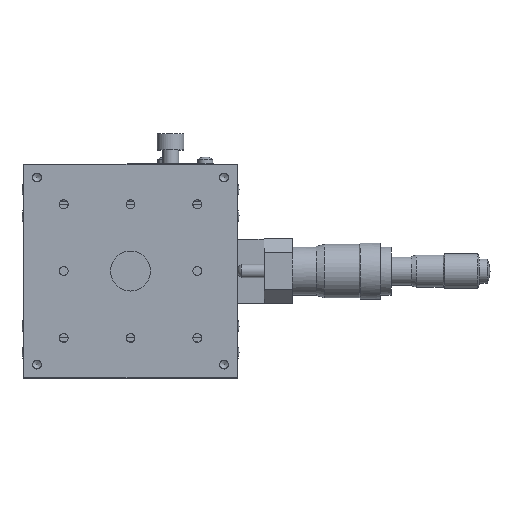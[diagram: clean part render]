
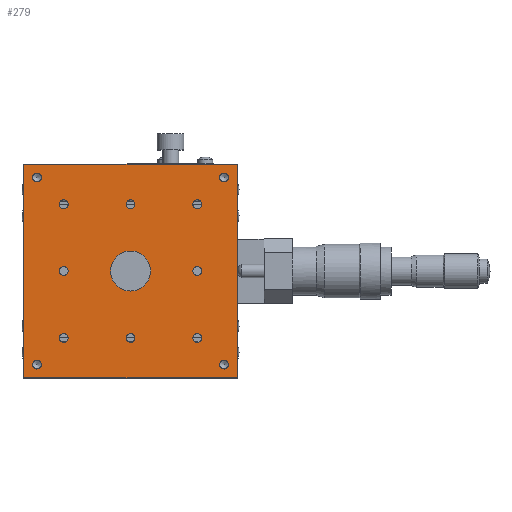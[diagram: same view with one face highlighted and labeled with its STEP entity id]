
A CAD part, top view. The second image highlights one B-rep face of the part: STEP entity #279.
In plain terms, the highlighted planar face has unit normal (0, 0, 1).
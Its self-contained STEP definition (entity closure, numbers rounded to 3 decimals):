
#279 = ADVANCED_FACE( '', ( #719, #720, #721, #722, #723, #724, #725, #726, #727, #728, #729, #730, #731, #732 ), #733, .T. );
#719 = FACE_BOUND( '', #1408, .T. );
#720 = FACE_BOUND( '', #1409, .T. );
#721 = FACE_BOUND( '', #1410, .T. );
#722 = FACE_BOUND( '', #1411, .T. );
#723 = FACE_BOUND( '', #1412, .T. );
#724 = FACE_BOUND( '', #1413, .T. );
#725 = FACE_BOUND( '', #1414, .T. );
#726 = FACE_BOUND( '', #1415, .T. );
#727 = FACE_BOUND( '', #1416, .T. );
#728 = FACE_BOUND( '', #1417, .T. );
#729 = FACE_BOUND( '', #1418, .T. );
#730 = FACE_BOUND( '', #1419, .T. );
#731 = FACE_OUTER_BOUND( '', #1420, .T. );
#732 = FACE_BOUND( '', #1421, .T. );
#733 = PLANE( '', #1422 );
#1408 = EDGE_LOOP( '', ( #2185 ) );
#1409 = EDGE_LOOP( '', ( #2186 ) );
#1410 = EDGE_LOOP( '', ( #2187 ) );
#1411 = EDGE_LOOP( '', ( #2188 ) );
#1412 = EDGE_LOOP( '', ( #2189 ) );
#1413 = EDGE_LOOP( '', ( #2190 ) );
#1414 = EDGE_LOOP( '', ( #2191 ) );
#1415 = EDGE_LOOP( '', ( #2192 ) );
#1416 = EDGE_LOOP( '', ( #2193 ) );
#1417 = EDGE_LOOP( '', ( #2194 ) );
#1418 = EDGE_LOOP( '', ( #2195 ) );
#1419 = EDGE_LOOP( '', ( #2196 ) );
#1420 = EDGE_LOOP( '', ( #2197, #2198, #2199, #2200 ) );
#1421 = EDGE_LOOP( '', ( #2201 ) );
#1422 = AXIS2_PLACEMENT_3D( '', #2202, #2203, #2204 );
#2185 = ORIENTED_EDGE( '', *, *, #3648, .T. );
#2186 = ORIENTED_EDGE( '', *, *, #3649, .T. );
#2187 = ORIENTED_EDGE( '', *, *, #3650, .T. );
#2188 = ORIENTED_EDGE( '', *, *, #3651, .T. );
#2189 = ORIENTED_EDGE( '', *, *, #3534, .T. );
#2190 = ORIENTED_EDGE( '', *, *, #3652, .T. );
#2191 = ORIENTED_EDGE( '', *, *, #3653, .T. );
#2192 = ORIENTED_EDGE( '', *, *, #3654, .T. );
#2193 = ORIENTED_EDGE( '', *, *, #3655, .T. );
#2194 = ORIENTED_EDGE( '', *, *, #3656, .T. );
#2195 = ORIENTED_EDGE( '', *, *, #3657, .T. );
#2196 = ORIENTED_EDGE( '', *, *, #3658, .T. );
#2197 = ORIENTED_EDGE( '', *, *, #3659, .F. );
#2198 = ORIENTED_EDGE( '', *, *, #3660, .F. );
#2199 = ORIENTED_EDGE( '', *, *, #3661, .F. );
#2200 = ORIENTED_EDGE( '', *, *, #3662, .F. );
#2201 = ORIENTED_EDGE( '', *, *, #3550, .T. );
#2202 = CARTESIAN_POINT( '', ( 0., 0., 20. ) );
#2203 = DIRECTION( '', ( 0., 0., 1. ) );
#2204 = DIRECTION( '', ( 1., 0., 0. ) );
#3534 = EDGE_CURVE( '', #4123, #4123, #4124, .T. );
#3550 = EDGE_CURVE( '', #4151, #4151, #4152, .F. );
#3648 = EDGE_CURVE( '', #4321, #4321, #4322, .T. );
#3649 = EDGE_CURVE( '', #4323, #4323, #4324, .T. );
#3650 = EDGE_CURVE( '', #4325, #4325, #4326, .T. );
#3651 = EDGE_CURVE( '', #4327, #4327, #4328, .T. );
#3652 = EDGE_CURVE( '', #4329, #4329, #4330, .T. );
#3653 = EDGE_CURVE( '', #4331, #4331, #4332, .T. );
#3654 = EDGE_CURVE( '', #4333, #4333, #4334, .T. );
#3655 = EDGE_CURVE( '', #4335, #4335, #4336, .T. );
#3656 = EDGE_CURVE( '', #4337, #4337, #4338, .T. );
#3657 = EDGE_CURVE( '', #4339, #4339, #4340, .T. );
#3658 = EDGE_CURVE( '', #4341, #4341, #4342, .T. );
#3659 = EDGE_CURVE( '', #4343, #4344, #4345, .T. );
#3660 = EDGE_CURVE( '', #4346, #4343, #4347, .T. );
#3661 = EDGE_CURVE( '', #4348, #4346, #4349, .T. );
#3662 = EDGE_CURVE( '', #4344, #4348, #4350, .T. );
#4123 = VERTEX_POINT( '', #4994 );
#4124 = CIRCLE( '', #4995, 1.65 );
#4151 = VERTEX_POINT( '', #5030 );
#4152 = CIRCLE( '', #5031, 7.5 );
#4321 = VERTEX_POINT( '', #5264 );
#4322 = CIRCLE( '', #5265, 1.65 );
#4323 = VERTEX_POINT( '', #5266 );
#4324 = CIRCLE( '', #5267, 1.65 );
#4325 = VERTEX_POINT( '', #5268 );
#4326 = CIRCLE( '', #5269, 1.65 );
#4327 = VERTEX_POINT( '', #5270 );
#4328 = CIRCLE( '', #5271, 1.65 );
#4329 = VERTEX_POINT( '', #5272 );
#4330 = CIRCLE( '', #5273, 1.65 );
#4331 = VERTEX_POINT( '', #5274 );
#4332 = CIRCLE( '', #5275, 1.65 );
#4333 = VERTEX_POINT( '', #5276 );
#4334 = CIRCLE( '', #5277, 1.65 );
#4335 = VERTEX_POINT( '', #5278 );
#4336 = CIRCLE( '', #5279, 1.65 );
#4337 = VERTEX_POINT( '', #5280 );
#4338 = CIRCLE( '', #5281, 1.65 );
#4339 = VERTEX_POINT( '', #5282 );
#4340 = CIRCLE( '', #5283, 1.65 );
#4341 = VERTEX_POINT( '', #5284 );
#4342 = CIRCLE( '', #5285, 1.65 );
#4343 = VERTEX_POINT( '', #5286 );
#4344 = VERTEX_POINT( '', #5287 );
#4345 = LINE( '', #5288, #5289 );
#4346 = VERTEX_POINT( '', #5290 );
#4347 = LINE( '', #5291, #5292 );
#4348 = VERTEX_POINT( '', #5293 );
#4349 = LINE( '', #5294, #5295 );
#4350 = LINE( '', #5296, #5297 );
#4994 = CARTESIAN_POINT( '', ( 25., -1.65, 20. ) );
#4995 = AXIS2_PLACEMENT_3D( '', #6164, #6165, #6166 );
#5030 = CARTESIAN_POINT( '', ( 0., -7.5, 20. ) );
#5031 = AXIS2_PLACEMENT_3D( '', #6184, #6185, #6186 );
#5264 = CARTESIAN_POINT( '', ( -25., -1.65, 20. ) );
#5265 = AXIS2_PLACEMENT_3D( '', #6315, #6316, #6317 );
#5266 = CARTESIAN_POINT( '', ( -25., 23.35, 20. ) );
#5267 = AXIS2_PLACEMENT_3D( '', #6318, #6319, #6320 );
#5268 = CARTESIAN_POINT( '', ( 0., 23.35, 20. ) );
#5269 = AXIS2_PLACEMENT_3D( '', #6321, #6322, #6323 );
#5270 = CARTESIAN_POINT( '', ( 25., 23.35, 20. ) );
#5271 = AXIS2_PLACEMENT_3D( '', #6324, #6325, #6326 );
#5272 = CARTESIAN_POINT( '', ( 25., -26.65, 20. ) );
#5273 = AXIS2_PLACEMENT_3D( '', #6327, #6328, #6329 );
#5274 = CARTESIAN_POINT( '', ( 0., -26.65, 20. ) );
#5275 = AXIS2_PLACEMENT_3D( '', #6330, #6331, #6332 );
#5276 = CARTESIAN_POINT( '', ( -25., -26.65, 20. ) );
#5277 = AXIS2_PLACEMENT_3D( '', #6333, #6334, #6335 );
#5278 = CARTESIAN_POINT( '', ( -35., 33.35, 20. ) );
#5279 = AXIS2_PLACEMENT_3D( '', #6336, #6337, #6338 );
#5280 = CARTESIAN_POINT( '', ( 35., 33.35, 20. ) );
#5281 = AXIS2_PLACEMENT_3D( '', #6339, #6340, #6341 );
#5282 = CARTESIAN_POINT( '', ( 35., -36.65, 20. ) );
#5283 = AXIS2_PLACEMENT_3D( '', #6342, #6343, #6344 );
#5284 = CARTESIAN_POINT( '', ( -35., -36.65, 20. ) );
#5285 = AXIS2_PLACEMENT_3D( '', #6345, #6346, #6347 );
#5286 = CARTESIAN_POINT( '', ( 40., 40., 20. ) );
#5287 = CARTESIAN_POINT( '', ( 40., -40., 20. ) );
#5288 = CARTESIAN_POINT( '', ( 40., 0., 20. ) );
#5289 = VECTOR( '', #6348, 1000. );
#5290 = CARTESIAN_POINT( '', ( -40., 40., 20. ) );
#5291 = CARTESIAN_POINT( '', ( 0., 40., 20. ) );
#5292 = VECTOR( '', #6349, 1000. );
#5293 = CARTESIAN_POINT( '', ( -40., -40., 20. ) );
#5294 = CARTESIAN_POINT( '', ( -40., 0., 20. ) );
#5295 = VECTOR( '', #6350, 1000. );
#5296 = CARTESIAN_POINT( '', ( 0., -40., 20. ) );
#5297 = VECTOR( '', #6351, 1000. );
#6164 = CARTESIAN_POINT( '', ( 25., 0., 20. ) );
#6165 = DIRECTION( '', ( 0., 0., -1. ) );
#6166 = DIRECTION( '', ( 0., -1., 0. ) );
#6184 = CARTESIAN_POINT( '', ( 0., 0., 20. ) );
#6185 = DIRECTION( '', ( 0., 0., 1. ) );
#6186 = DIRECTION( '', ( 0., -1., 0. ) );
#6315 = CARTESIAN_POINT( '', ( -25., 0., 20. ) );
#6316 = DIRECTION( '', ( 0., 0., -1. ) );
#6317 = DIRECTION( '', ( 0., -1., 0. ) );
#6318 = CARTESIAN_POINT( '', ( -25., 25., 20. ) );
#6319 = DIRECTION( '', ( 0., 0., -1. ) );
#6320 = DIRECTION( '', ( 0., -1., 0. ) );
#6321 = CARTESIAN_POINT( '', ( 0., 25., 20. ) );
#6322 = DIRECTION( '', ( 0., 0., -1. ) );
#6323 = DIRECTION( '', ( 0., -1., 0. ) );
#6324 = CARTESIAN_POINT( '', ( 25., 25., 20. ) );
#6325 = DIRECTION( '', ( 0., 0., -1. ) );
#6326 = DIRECTION( '', ( 0., -1., 0. ) );
#6327 = CARTESIAN_POINT( '', ( 25., -25., 20. ) );
#6328 = DIRECTION( '', ( 0., 0., -1. ) );
#6329 = DIRECTION( '', ( 0., -1., 0. ) );
#6330 = CARTESIAN_POINT( '', ( 0., -25., 20. ) );
#6331 = DIRECTION( '', ( 0., 0., -1. ) );
#6332 = DIRECTION( '', ( 0., -1., 0. ) );
#6333 = CARTESIAN_POINT( '', ( -25., -25., 20. ) );
#6334 = DIRECTION( '', ( 0., 0., -1. ) );
#6335 = DIRECTION( '', ( 0., -1., 0. ) );
#6336 = CARTESIAN_POINT( '', ( -35., 35., 20. ) );
#6337 = DIRECTION( '', ( 0., 0., -1. ) );
#6338 = DIRECTION( '', ( 0., -1., 0. ) );
#6339 = CARTESIAN_POINT( '', ( 35., 35., 20. ) );
#6340 = DIRECTION( '', ( 0., 0., -1. ) );
#6341 = DIRECTION( '', ( 0., -1., 0. ) );
#6342 = CARTESIAN_POINT( '', ( 35., -35., 20. ) );
#6343 = DIRECTION( '', ( 0., 0., -1. ) );
#6344 = DIRECTION( '', ( 0., -1., 0. ) );
#6345 = CARTESIAN_POINT( '', ( -35., -35., 20. ) );
#6346 = DIRECTION( '', ( 0., 0., -1. ) );
#6347 = DIRECTION( '', ( 0., -1., 0. ) );
#6348 = DIRECTION( '', ( 0., -1., 0. ) );
#6349 = DIRECTION( '', ( 1., 0., 0. ) );
#6350 = DIRECTION( '', ( 0., 1., 0. ) );
#6351 = DIRECTION( '', ( -1., 0., 0. ) );
